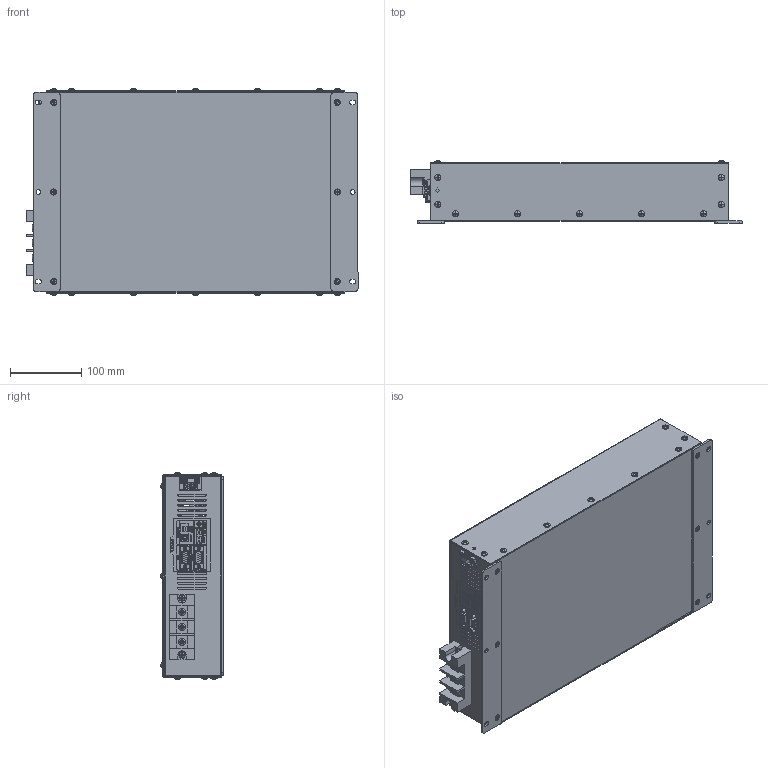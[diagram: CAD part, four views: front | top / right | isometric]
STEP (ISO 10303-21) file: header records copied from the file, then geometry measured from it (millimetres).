
FILE_DESCRIPTION(/* description */ ('','CAx-IF Rec.Pracs.---Representation and Presentation of Product Manufacturing Information (PMI)---4.0---2014-10-13'),/* implementation_level */ '2;1');
FILE_NAME(/* name */ 'H:\04_배터리_전기종\고부하용 배터리 케이스_3D\[NEW] VW2COM 설계자용\VW2COM.stp',/* time_stamp */ '2022-06-16T16:32:25+09:00',/* author */ ('jjang'),/* organization */ (''),/* preprocessor_version */ 'ST-DEVELOPER v18.1',/* originating_system */ 'Autodesk Inventor 2021',/* authorisation */ '');
FILE_SCHEMA (('AP242_MANAGED_MODEL_BASED_3D_ENGINEERING_MIM_LF { 1 0 10303 442 1 1 4 }'));
Products named in the file (1): VW2COM_Shrinkwrap_1
Bounding box: 467 x 87.92 x 290.84 mm (x, y, z)
Volume: 666709.6 mm3; surface area: 828469.6 mm2
Topology: 13 solids, 13 shells, 3579 faces, 10879 edges, 7690 vertices
Faces by surface type: plane 1990, cylinder 916, bspline 514, torus 101, cone 38, sphere 20
Full cylindrical faces by diameter (mm): 0.609 x1, 0.61 x27, 0.635 x9, 0.9 x4, 1.397 x9, 2.286 x9, 2.8 x8, 2.957 x4, 3 x2, 3.048 x4, 3.6 x4, 3.783 x2, 3.8 x58, 3.9 x2, 4 x11, 4.3 x8, 4.5 x12, 5 x9, 5.3 x10, 5.4 x2, 5.429 x2, 6 x3, 6.082 x1, 6.6 x2, 7.5 x6, 8.8 x26, 10 x5, 25.4 x2, 55.4 x2
Entity records: 149065 total; most frequent: CARTESIAN_POINT 50389, ORIENTED_EDGE 21730, DIRECTION 17197, EDGE_CURVE 10865, VERTEX_POINT 7690, LINE 5821, VECTOR 5821, AXIS2_PLACEMENT_3D 5688
